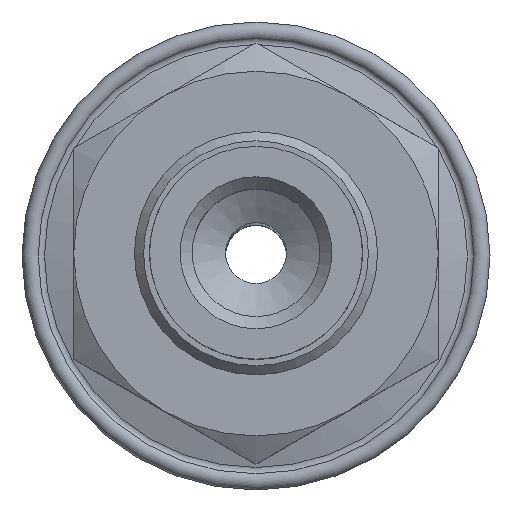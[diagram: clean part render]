
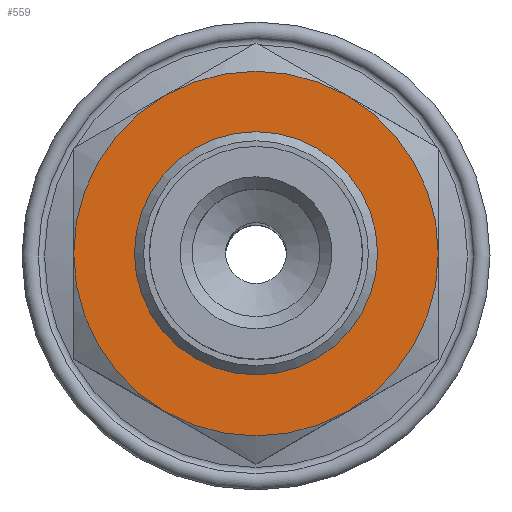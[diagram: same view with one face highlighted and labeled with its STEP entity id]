
A CAD part, top view. The second image highlights one B-rep face of the part: STEP entity #559.
In plain terms, the highlighted planar face has unit normal (0, 0, 1).
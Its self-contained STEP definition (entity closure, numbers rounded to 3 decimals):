
#559=ADVANCED_FACE('',(#833,#834),#835,.T.);
#833=FACE_BOUND('',#1268,.T.);
#834=FACE_OUTER_BOUND('',#1269,.T.);
#835=PLANE('',#1270);
#1268=EDGE_LOOP('',(#1864));
#1269=EDGE_LOOP('',(#1865,#1866,#1867,#1868,#1869,#1870));
#1270=AXIS2_PLACEMENT_3D('',#1871,#1872,#1873);
#1864=ORIENTED_EDGE('',*,*,#2849,.T.);
#1865=ORIENTED_EDGE('',*,*,#2850,.T.);
#1866=ORIENTED_EDGE('',*,*,#2851,.T.);
#1867=ORIENTED_EDGE('',*,*,#2815,.T.);
#1868=ORIENTED_EDGE('',*,*,#2837,.T.);
#1869=ORIENTED_EDGE('',*,*,#2852,.T.);
#1870=ORIENTED_EDGE('',*,*,#2847,.T.);
#1871=CARTESIAN_POINT('',(-6.928,-6.0,3.0));
#1872=DIRECTION('',(0.0,0.0,1.0));
#1873=DIRECTION('',(1.0,0.0,0.0));
#2815=EDGE_CURVE('',#3187,#3178,#3188,.T.);
#2837=EDGE_CURVE('',#3178,#3224,#3226,.T.);
#2847=EDGE_CURVE('',#3202,#3193,#3239,.T.);
#2849=EDGE_CURVE('',#3241,#3241,#3242,.T.);
#2850=EDGE_CURVE('',#3193,#3220,#3243,.T.);
#2851=EDGE_CURVE('',#3220,#3187,#3244,.T.);
#2852=EDGE_CURVE('',#3224,#3202,#3245,.T.);
#3178=VERTEX_POINT('',#3741);
#3187=VERTEX_POINT('',#3763);
#3188=CIRCLE('',#3764,6.0);
#3193=VERTEX_POINT('',#3774);
#3202=VERTEX_POINT('',#3796);
#3220=VERTEX_POINT('',#3840);
#3224=VERTEX_POINT('',#3852);
#3226=CIRCLE('',#3858,6.0);
#3239=CIRCLE('',#3887,6.0);
#3241=VERTEX_POINT('',#3889);
#3242=CIRCLE('',#3890,3.925);
#3243=CIRCLE('',#3891,6.0);
#3244=CIRCLE('',#3892,6.0);
#3245=CIRCLE('',#3893,6.0);
#3741=CARTESIAN_POINT('',(-5.196,3.0,3.0));
#3763=CARTESIAN_POINT('',(0.,6.0,3.0));
#3764=AXIS2_PLACEMENT_3D('',#4693,#4694,#4695);
#3774=CARTESIAN_POINT('',(5.196,-3.0,3.0));
#3796=CARTESIAN_POINT('',(0.,-6.0,3.0));
#3840=CARTESIAN_POINT('',(5.196,3.0,3.0));
#3852=CARTESIAN_POINT('',(-5.196,-3.0,3.0));
#3858=AXIS2_PLACEMENT_3D('',#4706,#4707,#4708);
#3887=AXIS2_PLACEMENT_3D('',#4721,#4722,#4723);
#3889=CARTESIAN_POINT('',(3.925,0.0,3.0));
#3890=AXIS2_PLACEMENT_3D('',#4727,#4728,#4729);
#3891=AXIS2_PLACEMENT_3D('',#4730,#4731,#4732);
#3892=AXIS2_PLACEMENT_3D('',#4733,#4734,#4735);
#3893=AXIS2_PLACEMENT_3D('',#4736,#4737,#4738);
#4693=CARTESIAN_POINT('',(0.,0.0,3.0));
#4694=DIRECTION('',(0.0,0.,1.0));
#4695=DIRECTION('',(0.0,-1.0,0.));
#4706=CARTESIAN_POINT('',(0.,0.0,3.0));
#4707=DIRECTION('',(0.0,0.,1.0));
#4708=DIRECTION('',(0.0,-1.0,0.));
#4721=CARTESIAN_POINT('',(0.,0.0,3.0));
#4722=DIRECTION('',(0.0,0.,1.0));
#4723=DIRECTION('',(0.0,-1.0,0.));
#4727=CARTESIAN_POINT('',(0.0,0.0,3.0));
#4728=DIRECTION('',(0.0,0.0,-1.0));
#4729=DIRECTION('',(1.0,0.0,0.0));
#4730=CARTESIAN_POINT('',(0.,0.0,3.0));
#4731=DIRECTION('',(0.0,0.,1.0));
#4732=DIRECTION('',(0.0,-1.0,0.));
#4733=CARTESIAN_POINT('',(0.,0.0,3.0));
#4734=DIRECTION('',(0.0,0.,1.0));
#4735=DIRECTION('',(0.0,-1.0,0.));
#4736=CARTESIAN_POINT('',(0.,0.0,3.0));
#4737=DIRECTION('',(0.0,0.,1.0));
#4738=DIRECTION('',(0.0,-1.0,0.));
